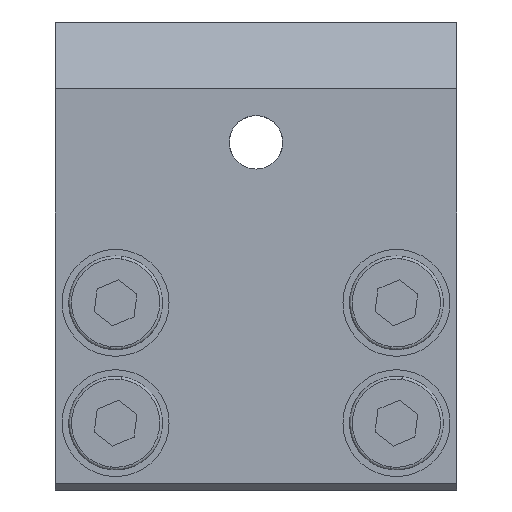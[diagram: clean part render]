
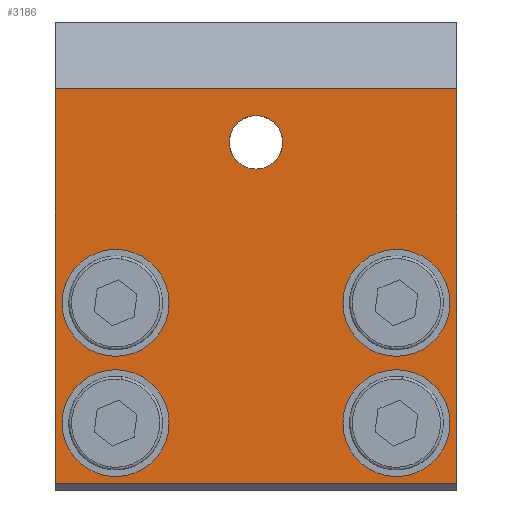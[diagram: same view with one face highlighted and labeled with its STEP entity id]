
A CAD part, front view. The second image highlights one B-rep face of the part: STEP entity #3186.
In plain terms, the highlighted planar face has unit normal (0, -1, 0).
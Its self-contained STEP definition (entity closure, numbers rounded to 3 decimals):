
#700 = CARTESIAN_POINT ( 'NONE',  ( 39.323, -17.153, 12.5 ) ) ;
#1006 = CARTESIAN_POINT ( 'NONE',  ( 13.823, -17.153, -12.5 ) ) ;
#1079 = VERTEX_POINT ( 'NONE', #41259 ) ;
#1478 = EDGE_LOOP ( 'NONE', ( #7544, #23560 ) ) ;
#2144 = VERTEX_POINT ( 'NONE', #12506 ) ;
#2166 = DIRECTION ( 'NONE',  ( 0., -1., 0. ) ) ;
#2361 = VERTEX_POINT ( 'NONE', #6291 ) ;
#3186 = ADVANCED_FACE ( 'NONE', ( #25401, #16293, #42565, #7242, #33466, #24340 ), #28570, .F. ) ;
#3851 = EDGE_CURVE ( 'NONE', #11173, #37378, #26504, .T. ) ;
#4453 = CIRCLE ( 'NONE', #19565, 4. ) ;
#4511 = DIRECTION ( 'NONE',  ( 1., 0., 0. ) ) ;
#4607 = CARTESIAN_POINT ( 'NONE',  ( 30.823, -17.153, -12.5 ) ) ;
#5179 = VERTEX_POINT ( 'NONE', #700 ) ;
#5360 = ORIENTED_EDGE ( 'NONE', *, *, #26575, .T. ) ;
#6291 = CARTESIAN_POINT ( 'NONE',  ( 9.323, -17.153, -17. ) ) ;
#6557 = AXIS2_PLACEMENT_3D ( 'NONE', #15826, #39827, #19264 ) ;
#6808 = CARTESIAN_POINT ( 'NONE',  ( 24.323, -17.153, 12.5 ) ) ;
#7189 = CARTESIAN_POINT ( 'NONE',  ( 24.323, -17.153, -17. ) ) ;
#7242 = FACE_BOUND ( 'NONE', #19179, .T. ) ;
#7544 = ORIENTED_EDGE ( 'NONE', *, *, #20784, .F. ) ;
#7847 = DIRECTION ( 'NONE',  ( 0., 0., -1. ) ) ;
#8249 = EDGE_CURVE ( 'NONE', #29943, #2144, #16875, .T. ) ;
#8382 = CARTESIAN_POINT ( 'NONE',  ( 24.323, -17.153, 8.5 ) ) ;
#8586 = CIRCLE ( 'NONE', #6557, 4. ) ;
#8895 = CARTESIAN_POINT ( 'NONE',  ( 17.823, -17.153, -12.5 ) ) ;
#9178 = EDGE_CURVE ( 'NONE', #15660, #36758, #15186, .T. ) ;
#9592 = CIRCLE ( 'NONE', #23438, 4. ) ;
#10078 = DIRECTION ( 'NONE',  ( -1., 0., 0. ) ) ;
#10184 = ORIENTED_EDGE ( 'NONE', *, *, #33505, .F. ) ;
#10389 = CARTESIAN_POINT ( 'NONE',  ( 9.823, -17.153, -12.5 ) ) ;
#10837 = VERTEX_POINT ( 'NONE', #8895 ) ;
#11173 = VERTEX_POINT ( 'NONE', #27831 ) ;
#11825 = DIRECTION ( 'NONE',  ( 0., 0., -1. ) ) ;
#12270 = DIRECTION ( 'NONE',  ( 0., -1., 0. ) ) ;
#12348 = AXIS2_PLACEMENT_3D ( 'NONE', #15569, #39564, #19010 ) ;
#12354 = ORIENTED_EDGE ( 'NONE', *, *, #20607, .F. ) ;
#12439 = EDGE_LOOP ( 'NONE', ( #38057, #27798 ) ) ;
#12506 = CARTESIAN_POINT ( 'NONE',  ( 38.823, -17.153, -3.5 ) ) ;
#13505 = EDGE_CURVE ( 'NONE', #39210, #37700, #22255, .T. ) ;
#13921 = ORIENTED_EDGE ( 'NONE', *, *, #3851, .F. ) ;
#14477 = ORIENTED_EDGE ( 'NONE', *, *, #9178, .F. ) ;
#14524 = LINE ( 'NONE', #28461, #23619 ) ;
#15186 = CIRCLE ( 'NONE', #41313, 4. ) ;
#15569 = CARTESIAN_POINT ( 'NONE',  ( 24.323, -17.153, 8.5 ) ) ;
#15660 = VERTEX_POINT ( 'NONE', #42147 ) ;
#15826 = CARTESIAN_POINT ( 'NONE',  ( 34.823, -17.153, -3.5 ) ) ;
#16284 = DIRECTION ( 'NONE',  ( 0., -1., 0. ) ) ;
#16293 = FACE_BOUND ( 'NONE', #43011, .T. ) ;
#16362 = EDGE_CURVE ( 'NONE', #37700, #39210, #16981, .T. ) ;
#16861 = DIRECTION ( 'NONE',  ( 0., -1., 0. ) ) ;
#16875 = CIRCLE ( 'NONE', #27437, 4. ) ;
#16981 = CIRCLE ( 'NONE', #12348, 2. ) ;
#17224 = VERTEX_POINT ( 'NONE', #10389 ) ;
#17272 = CARTESIAN_POINT ( 'NONE',  ( 34.823, -17.153, -12.5 ) ) ;
#18094 = CIRCLE ( 'NONE', #34110, 4. ) ;
#18923 = EDGE_CURVE ( 'NONE', #2361, #25295, #33774, .T. ) ;
#19010 = DIRECTION ( 'NONE',  ( 0., 0., -1. ) ) ;
#19129 = CARTESIAN_POINT ( 'NONE',  ( 9.323, -17.153, 12.5 ) ) ;
#19179 = EDGE_LOOP ( 'NONE', ( #13921, #40177 ) ) ;
#19264 = DIRECTION ( 'NONE',  ( 1., 0., 0. ) ) ;
#19565 = AXIS2_PLACEMENT_3D ( 'NONE', #22672, #2166, #26092 ) ;
#19921 = EDGE_CURVE ( 'NONE', #5179, #1079, #14524, .T. ) ;
#20459 = EDGE_CURVE ( 'NONE', #17224, #10837, #9592, .T. ) ;
#20607 = EDGE_CURVE ( 'NONE', #36758, #15660, #18094, .T. ) ;
#20700 = DIRECTION ( 'NONE',  ( 1., 0., 0. ) ) ;
#20784 = EDGE_CURVE ( 'NONE', #10837, #17224, #21822, .T. ) ;
#20878 = AXIS2_PLACEMENT_3D ( 'NONE', #37423, #16861, #40823 ) ;
#21822 = CIRCLE ( 'NONE', #20878, 4. ) ;
#22255 = CIRCLE ( 'NONE', #36988, 2. ) ;
#22336 = EDGE_CURVE ( 'NONE', #1079, #2361, #35565, .T. ) ;
#22340 = VECTOR ( 'NONE', #10078, 1000. ) ;
#22672 = CARTESIAN_POINT ( 'NONE',  ( 13.823, -17.153, -3.5 ) ) ;
#23401 = LINE ( 'NONE', #6808, #22340 ) ;
#23438 = AXIS2_PLACEMENT_3D ( 'NONE', #1006, #24985, #4511 ) ;
#23516 = ORIENTED_EDGE ( 'NONE', *, *, #19921, .F. ) ;
#23551 = VECTOR ( 'NONE', #26816, 1000. ) ;
#23560 = ORIENTED_EDGE ( 'NONE', *, *, #20459, .F. ) ;
#23619 = VECTOR ( 'NONE', #7847, 1000. ) ;
#24340 = FACE_OUTER_BOUND ( 'NONE', #38708, .T. ) ;
#24985 = DIRECTION ( 'NONE',  ( 0., -1., 0. ) ) ;
#25295 = VERTEX_POINT ( 'NONE', #19129 ) ;
#25401 = FACE_BOUND ( 'NONE', #1478, .T. ) ;
#26092 = DIRECTION ( 'NONE',  ( 1., 0., 0. ) ) ;
#26504 = CIRCLE ( 'NONE', #38091, 4. ) ;
#26561 = CARTESIAN_POINT ( 'NONE',  ( 24.323, -17.153, 6.5 ) ) ;
#26575 = EDGE_CURVE ( 'NONE', #5179, #25295, #23401, .T. ) ;
#26816 = DIRECTION ( 'NONE',  ( 0., 0., 1. ) ) ;
#27437 = AXIS2_PLACEMENT_3D ( 'NONE', #36830, #16284, #40280 ) ;
#27501 = DIRECTION ( 'NONE',  ( 0., 0., 1. ) ) ;
#27502 = VECTOR ( 'NONE', #34563, 1000. ) ;
#27635 = DIRECTION ( 'NONE',  ( 0., 1., 0. ) ) ;
#27770 = CARTESIAN_POINT ( 'NONE',  ( 9.323, -17.153, -17. ) ) ;
#27798 = ORIENTED_EDGE ( 'NONE', *, *, #13505, .F. ) ;
#27831 = CARTESIAN_POINT ( 'NONE',  ( 17.823, -17.153, -3.5 ) ) ;
#28461 = CARTESIAN_POINT ( 'NONE',  ( 39.323, -17.153, -2.25 ) ) ;
#28570 = PLANE ( 'NONE',  #35649 ) ;
#29407 = ORIENTED_EDGE ( 'NONE', *, *, #18923, .F. ) ;
#29943 = VERTEX_POINT ( 'NONE', #34281 ) ;
#31389 = CARTESIAN_POINT ( 'NONE',  ( 9.823, -17.153, -3.5 ) ) ;
#32308 = DIRECTION ( 'NONE',  ( 0., -1., 0. ) ) ;
#32512 = EDGE_CURVE ( 'NONE', #37378, #11173, #4453, .T. ) ;
#32748 = CARTESIAN_POINT ( 'NONE',  ( 34.823, -17.153, -12.5 ) ) ;
#33013 = CARTESIAN_POINT ( 'NONE',  ( 24.323, -17.153, 10.5 ) ) ;
#33195 = ORIENTED_EDGE ( 'NONE', *, *, #8249, .F. ) ;
#33466 = FACE_BOUND ( 'NONE', #12439, .T. ) ;
#33505 = EDGE_CURVE ( 'NONE', #2144, #29943, #8586, .T. ) ;
#33774 = LINE ( 'NONE', #37202, #23551 ) ;
#34110 = AXIS2_PLACEMENT_3D ( 'NONE', #32748, #12270, #36216 ) ;
#34281 = CARTESIAN_POINT ( 'NONE',  ( 30.823, -17.153, -3.5 ) ) ;
#34563 = DIRECTION ( 'NONE',  ( -1., 0., 0. ) ) ;
#35501 = EDGE_LOOP ( 'NONE', ( #10184, #33195 ) ) ;
#35565 = LINE ( 'NONE', #7189, #27502 ) ;
#35649 = AXIS2_PLACEMENT_3D ( 'NONE', #27770, #27635, #27501 ) ;
#36216 = DIRECTION ( 'NONE',  ( 1., 0., 0. ) ) ;
#36758 = VERTEX_POINT ( 'NONE', #4607 ) ;
#36830 = CARTESIAN_POINT ( 'NONE',  ( 34.823, -17.153, -3.5 ) ) ;
#36988 = AXIS2_PLACEMENT_3D ( 'NONE', #8382, #32308, #11825 ) ;
#37202 = CARTESIAN_POINT ( 'NONE',  ( 9.323, -17.153, 0. ) ) ;
#37378 = VERTEX_POINT ( 'NONE', #31389 ) ;
#37423 = CARTESIAN_POINT ( 'NONE',  ( 13.823, -17.153, -12.5 ) ) ;
#37700 = VERTEX_POINT ( 'NONE', #26561 ) ;
#38057 = ORIENTED_EDGE ( 'NONE', *, *, #16362, .F. ) ;
#38091 = AXIS2_PLACEMENT_3D ( 'NONE', #43828, #42489, #42433 ) ;
#38708 = EDGE_LOOP ( 'NONE', ( #43927, #23516, #5360, #29407 ) ) ;
#39210 = VERTEX_POINT ( 'NONE', #33013 ) ;
#39564 = DIRECTION ( 'NONE',  ( 0., -1., 0. ) ) ;
#39827 = DIRECTION ( 'NONE',  ( 0., -1., 0. ) ) ;
#40177 = ORIENTED_EDGE ( 'NONE', *, *, #32512, .F. ) ;
#40280 = DIRECTION ( 'NONE',  ( 1., 0., 0. ) ) ;
#40823 = DIRECTION ( 'NONE',  ( 1., 0., 0. ) ) ;
#41235 = DIRECTION ( 'NONE',  ( 0., -1., 0. ) ) ;
#41259 = CARTESIAN_POINT ( 'NONE',  ( 39.323, -17.153, -17. ) ) ;
#41313 = AXIS2_PLACEMENT_3D ( 'NONE', #17272, #41235, #20700 ) ;
#42147 = CARTESIAN_POINT ( 'NONE',  ( 38.823, -17.153, -12.5 ) ) ;
#42433 = DIRECTION ( 'NONE',  ( 1., 0., 0. ) ) ;
#42489 = DIRECTION ( 'NONE',  ( 0., -1., 0. ) ) ;
#42565 = FACE_BOUND ( 'NONE', #35501, .T. ) ;
#43011 = EDGE_LOOP ( 'NONE', ( #14477, #12354 ) ) ;
#43828 = CARTESIAN_POINT ( 'NONE',  ( 13.823, -17.153, -3.5 ) ) ;
#43927 = ORIENTED_EDGE ( 'NONE', *, *, #22336, .F. ) ;
